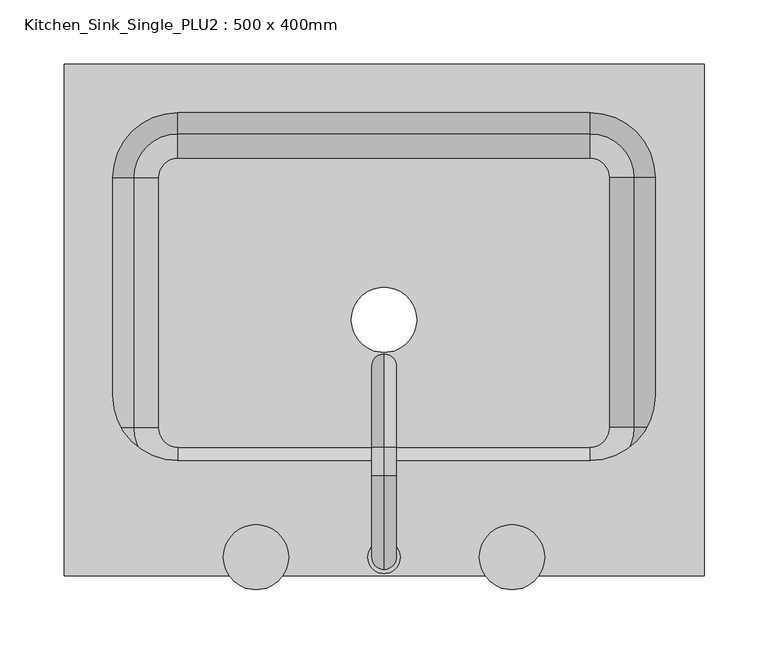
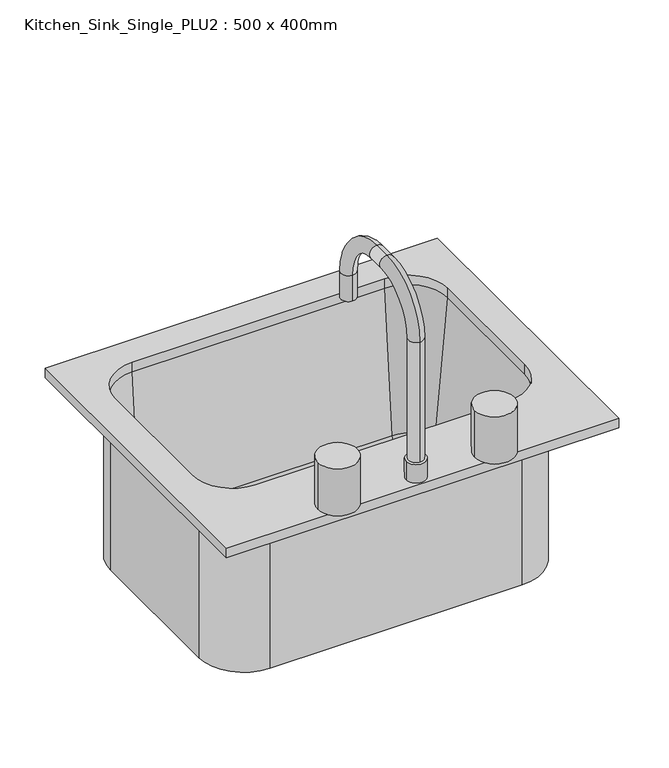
"""IFC4 building model written with IfcOpenShell, lengths in millimetres: flow terminal geometry, Kitchen_Sink_Single_PLU2 : 500 x 400mm."""

from ifc_helpers import new_model, si_unit, point, frame, frame_2d, origin, origin_with_axes, place, context, project, spatial, polyline, circle_curve, ellipse_curve, trimmed, segment, composite_curve, outline, extrude, source, transform, mapped, element, save
from ifc_brep_helpers import plane_surface, cylinder_surface, revolved_surface, advanced_brep


def kitchen_sink_single_plu2_500_x_400mm_1b04c9e8(model_context):
    return source(origin(), model_context, "Body", "SolidModel", [
        extrude(outline(polyline([(250.0, -200.0), (-250.0, -200.0), (-250.0, 200.0), (250.0, 200.0), (250.0, -200.0)]), holes=[composite_curve([segment(trimmed(circle_curve(frame_2d((161.1, -59.2710828)), 50.8), [point((161.1, -110.0710828))], [point((211.9, -59.2710828))], True, "CARTESIAN"), True, "CONTINUOUS"), segment(polyline([(211.9, -59.2710828), (211.9, 111.1)]), True, "CONTINUOUS"), segment(trimmed(circle_curve(frame_2d((161.1, 111.1)), 50.8), [point((211.9, 111.1))], [point((161.1, 161.9))], True, "CARTESIAN"), True, "CONTINUOUS"), segment(polyline([(161.1, 161.9), (-161.1, 161.9)]), True, "CONTINUOUS"), segment(trimmed(circle_curve(frame_2d((-161.1, 111.1)), 50.8), [point((-161.1, 161.9))], [point((-211.9, 111.1))], True, "CARTESIAN"), True, "CONTINUOUS"), segment(polyline([(-211.9, 111.1), (-211.9, -59.2710828)]), True, "CONTINUOUS"), segment(trimmed(circle_curve(frame_2d((-161.1, -59.2710828)), 50.8), [point((-211.9, -59.2710828))], [point((-161.1, -110.0710828))], True, "CARTESIAN"), True, "CONTINUOUS"), segment(polyline([(-161.1, -110.0710828), (161.1, -110.0710828)]), True, "CONTINUOUS")], self_intersect=False)]), origin_with_axes(), (0.0, 0.0, 1.0), 12.7),
        extrude(outline(composite_curve([segment(trimmed(circle_curve(frame_2d((0.0, -185.59958)), 12.7), [point((-12.7, -185.59958))], [point((12.7, -185.59958))], False, "CARTESIAN"), True, "CONTINUOUS"), segment(trimmed(circle_curve(frame_2d((0.0, -185.59958)), 12.7), [point((12.7, -185.59958))], [point((-12.7, -185.59958))], False, "CARTESIAN"), True, "CONTINUOUS")], self_intersect=False)), frame((0.0, 0.0, 12.7), z_axis=(0.0, 0.0, 1.0), x_axis=(1.0, 0.0, 0.0)), (0.0, 0.0, 1.0), 25.4),
        advanced_brep(
        [(0.0, -195.12458, 12.7), (0.0, -176.07458, 12.7), (0.0, -176.07458, 200.025), (0.0, -195.12458, 200.025), (0.0, -122.09958, 254.0), (0.0, -122.09958, 273.05), (0.0, -99.87458, 254.0), (0.0, -99.87458, 273.05), (0.0, -45.89958, 200.025), (0.0, -26.84958, 200.025), (0.0, -26.84958, 165.1), (0.0, -45.89958, 165.1)],
        [
            (0, 1, circle_curve(frame((0.0, -185.59958, 12.7), z_axis=(0.0, 0.0, -1.0), x_axis=(0.0, 1.0, 0.0)), 9.525)),
            (1, 0, circle_curve(frame((0.0, -185.59958, 12.7), z_axis=(0.0, 0.0, -1.0), x_axis=(0.0, 1.0, 0.0)), 9.525)),
            (1, 2),
            (2, 3, circle_curve(frame((0.0, -185.59958, 200.025), z_axis=(0.0, 0.0, -1.0), x_axis=(0.0, 1.0, 0.0)), 9.525)),
            (3, 0),
            (3, 2, circle_curve(frame((0.0, -185.59958, 200.025), z_axis=(0.0, 0.0, -1.0), x_axis=(0.0, 1.0, 0.0)), 9.525)),
            (4, 5, circle_curve(frame((0.0, -122.09958, 263.525), z_axis=(0.0, -1.0, 0.0), x_axis=(0.0, 0.0, -1.0)), 9.525)),
            (5, 3, circle_curve(frame((0.0, -122.09958, 200.025), z_axis=(1.0, 0.0, 0.0), x_axis=(0.0, -1.0, 0.0)), 73.025)),
            (2, 4, circle_curve(frame((0.0, -122.09958, 200.025), z_axis=(-1.0, 0.0, 0.0), x_axis=(0.0, -1.0, 0.0)), 53.975)),
            (5, 4, circle_curve(frame((0.0, -122.09958, 263.525), z_axis=(0.0, -1.0, 0.0), x_axis=(0.0, 0.0, -1.0)), 9.525)),
            (4, 6),
            (6, 7, circle_curve(frame((0.0, -99.87458, 263.525), z_axis=(0.0, -1.0, 0.0), x_axis=(0.0, 0.0, -1.0)), 9.525)),
            (7, 5),
            (7, 6, circle_curve(frame((0.0, -99.87458, 263.525), z_axis=(0.0, -1.0, 0.0), x_axis=(0.0, 0.0, -1.0)), 9.525)),
            (8, 9, circle_curve(frame((0.0, -36.37458, 200.025), z_axis=(0.0, 0.0, 1.0), x_axis=(0.0, -1.0, 0.0)), 9.525)),
            (9, 7, circle_curve(frame((0.0, -99.87458, 200.025), z_axis=(1.0, 0.0, 0.0), x_axis=(0.0, 0.0, 1.0)), 73.025)),
            (6, 8, circle_curve(frame((0.0, -99.87458, 200.025), z_axis=(-1.0, 0.0, 0.0), x_axis=(0.0, 0.0, 1.0)), 53.975)),
            (9, 8, circle_curve(frame((0.0, -36.37458, 200.025), z_axis=(0.0, 0.0, 1.0), x_axis=(0.0, -1.0, 0.0)), 9.525)),
            (10, 11, circle_curve(frame((0.0, -36.37458, 165.1), z_axis=(0.0, 0.0, -1.0), x_axis=(0.0, -1.0, 0.0)), 9.525)),
            (11, 10, circle_curve(frame((0.0, -36.37458, 165.1), z_axis=(0.0, 0.0, -1.0), x_axis=(0.0, -1.0, 0.0)), 9.525)),
            (8, 11),
            (10, 9),
        ],
        [
            plane_surface(frame((0.0, -176.07458, 12.7), z_axis=(0.0, 0.0, -1.0), x_axis=(1.0, 0.0, 0.0))),
            cylinder_surface(frame((0.0, -185.59958, 12.7), z_axis=(0.0, 0.0, -1.0), x_axis=(0.0, 1.0, 0.0)), 9.525),
            revolved_surface(trimmed(ellipse_curve(frame((0.0, -185.59958, 200.025), z_axis=(0.0, 0.0, 1.0), x_axis=(0.0, 1.0, 0.0)), 9.525, 9.525), [point((0.0, -195.12458, 200.025))], [point((0.0, -176.07458, 200.025))], True, "CARTESIAN"), (0.0, -122.09958, 200.025), (1.0, 0.0, 0.0)),
            revolved_surface(trimmed(ellipse_curve(frame((0.0, -185.59958, 200.025), z_axis=(0.0, 0.0, 1.0), x_axis=(0.0, 1.0, 0.0)), 9.525, 9.525), [point((0.0, -176.07458, 200.025))], [point((0.0, -195.12458, 200.025))], True, "CARTESIAN"), (0.0, -122.09958, 200.025), (1.0, 0.0, 0.0)),
            cylinder_surface(frame((0.0, -122.09958, 263.525), z_axis=(0.0, -1.0, 0.0), x_axis=(0.0, 0.0, -1.0)), 9.525),
            revolved_surface(trimmed(ellipse_curve(frame((0.0, -99.87458, 263.525), z_axis=(0.0, 1.0, 0.0), x_axis=(0.0, 0.0, -1.0)), 9.525, 9.525), [point((0.0, -99.87458, 273.05))], [point((0.0, -99.87458, 254.0))], True, "CARTESIAN"), (0.0, -99.87458, 200.025), (1.0, 0.0, 0.0)),
            revolved_surface(trimmed(ellipse_curve(frame((0.0, -99.87458, 263.525), z_axis=(0.0, 1.0, 0.0), x_axis=(0.0, 0.0, -1.0)), 9.525, 9.525), [point((0.0, -99.87458, 254.0))], [point((0.0, -99.87458, 273.05))], True, "CARTESIAN"), (0.0, -99.87458, 200.025), (1.0, 0.0, 0.0)),
            plane_surface(frame((0.0, -26.84958, 165.1), z_axis=(0.0, 0.0, -1.0), x_axis=(-1.0, 0.0, 0.0))),
            cylinder_surface(frame((0.0, -36.37458, 200.025), z_axis=(0.0, 0.0, 1.0), x_axis=(0.0, -1.0, 0.0)), 9.525),
        ],
        [
            (0, [[1, 2]]),
            (1, [[3, 4, 5, -2]]),
            (1, [[-5, 6, -3, -1]]),
            (2, [[7, 8, -4, 9]]),
            (3, [[10, -9, -6, -8]]),
            (4, [[11, 12, 13, -7]]),
            (4, [[-13, 14, -11, -10]]),
            (5, [[15, 16, -12, 17]]),
            (6, [[18, -17, -14, -16]]),
            (7, [[19, 20]]),
            (8, [[21, -19, 22, -15]]),
            (8, [[-22, -20, -21, -18]]),
        ],
    ),
        extrude(outline(composite_curve([segment(trimmed(circle_curve(frame_2d((-100.0, -185.59958)), 25.4), [point((-125.4, -185.59958))], [point((-74.6, -185.59958))], False, "CARTESIAN"), True, "CONTINUOUS"), segment(trimmed(circle_curve(frame_2d((-100.0, -185.59958)), 25.4), [point((-74.6, -185.59958))], [point((-125.4, -185.59958))], False, "CARTESIAN"), True, "CONTINUOUS")], self_intersect=False)), frame((0.0, 0.0, 12.7), z_axis=(0.0, 0.0, 1.0), x_axis=(1.0, 0.0, 0.0)), (0.0, 0.0, 1.0), 63.5),
        extrude(outline(composite_curve([segment(trimmed(circle_curve(frame_2d((100.0, -185.59958)), 25.4), [point((74.6, -185.59958))], [point((125.4, -185.59958))], False, "CARTESIAN"), True, "CONTINUOUS"), segment(trimmed(circle_curve(frame_2d((100.0, -185.59958)), 25.4), [point((125.4, -185.59958))], [point((74.6, -185.59958))], False, "CARTESIAN"), True, "CONTINUOUS")], self_intersect=False)), frame((0.0, 0.0, 12.7), z_axis=(0.0, 0.0, 1.0), x_axis=(1.0, 0.0, 0.0)), (0.0, 0.0, 1.0), 63.5),
        advanced_brep(
        [(218.25, -84.2710828, -215.9), (218.25, -84.2710828, 0.0), (161.1, -141.4210828, 0.0), (161.1, -141.4210828, -215.9), (195.3659272, -84.2710828, -188.9853169), (176.3884182, -84.2710828, -206.375), (161.1, -99.559501, -206.375), (161.1, -118.53701, -188.9853169), (161.1, -135.0710828, 0.0), (211.9, -84.2710828, 0.0), (218.25, 111.1, -215.9), (218.25, 111.1, 0.0), (195.3659272, 111.1, -188.9853169), (176.3884182, 111.1, -206.375), (211.9, 111.1, 0.0), (161.1, 168.25, -215.9), (161.1, 168.25, 0.0), (161.1, 145.3659272, -188.9853169), (161.1, 126.3884182, -206.375), (161.1, 161.9, 0.0), (-161.1, 168.25, -215.9), (-161.1, 168.25, 0.0), (-161.1, 145.3659272, -188.9853169), (-161.1, 126.3884182, -206.375), (-161.1, 161.9, 0.0), (-218.25, 111.1, -215.9), (-218.25, 111.1, 0.0), (-195.3659272, 111.1, -188.9853169), (-176.3884182, 111.1, -206.375), (-211.9, 111.1, 0.0), (-218.25, -84.2710828, -215.9), (-218.25, -84.2710828, 0.0), (-195.3659272, -84.2710828, -188.9853169), (-176.3884182, -84.2710828, -206.375), (-211.9, -84.2710828, 0.0), (-161.1, -141.4210828, -215.9), (-161.1, -141.4210828, 0.0), (-161.1, -118.53701, -188.9853169), (-161.1, -99.559501, -206.375), (-161.1, -135.0710828, 0.0), (-25.4, 0.0, -215.9), (25.4, 0.0, -215.9), (-25.4, 0.0, -206.375), (25.4, 0.0, -206.375)],
        [
            (0, 1),
            (1, 2, circle_curve(frame((161.1, -84.2710828, 0.0), z_axis=(0.0, 0.0, -1.0), x_axis=(0.0, -1.0, 0.0)), 57.15)),
            (2, 3),
            (3, 0, circle_curve(frame((161.1, -84.2710828, -215.9), z_axis=(0.0, 0.0, 1.0), x_axis=(0.0, -1.0, 0.0)), 57.15)),
            (4, 5, circle_curve(frame((176.3884182, -84.2710828, -187.325), z_axis=(0.0, 1.0, 0.0), x_axis=(1.0, 0.0, 0.0)), 19.05)),
            (5, 6, circle_curve(frame((161.1, -84.2710828, -206.375), z_axis=(0.0, 0.0, -1.0), x_axis=(0.0, -1.0, 0.0)), 15.2884182)),
            (6, 7, circle_curve(frame((161.1, -99.559501, -187.325), z_axis=(-1.0, 0.0, 0.0), x_axis=(0.0, -1.0, 0.0)), 19.05)),
            (7, 4, circle_curve(frame((161.1, -84.2710828, -188.9853169), z_axis=(0.0, 0.0, 1.0), x_axis=(0.0, -1.0, 0.0)), 34.2659272)),
            (7, 8),
            (8, 9, circle_curve(frame((161.1, -84.2710828, 0.0), z_axis=(0.0, 0.0, 1.0), x_axis=(0.0, -1.0, 0.0)), 50.8)),
            (9, 4),
            (0, 10),
            (10, 11),
            (11, 1),
            (4, 12),
            (12, 13, circle_curve(frame((176.3884182, 111.1, -187.325), z_axis=(0.0, 1.0, 0.0), x_axis=(1.0, 0.0, 0.0)), 19.05)),
            (13, 5),
            (9, 14),
            (14, 12),
            (10, 15, circle_curve(frame((161.1, 111.1, -215.9), z_axis=(0.0, 0.0, 1.0), x_axis=(1.0, 0.0, 0.0)), 57.15)),
            (15, 16),
            (16, 11, circle_curve(frame((161.1, 111.1, 0.0), z_axis=(0.0, 0.0, -1.0), x_axis=(1.0, 0.0, 0.0)), 57.15)),
            (12, 17, circle_curve(frame((161.1, 111.1, -188.9853169), z_axis=(0.0, 0.0, 1.0), x_axis=(1.0, 0.0, 0.0)), 34.2659272)),
            (17, 18, circle_curve(frame((161.1, 126.3884182, -187.325), z_axis=(-1.0, 0.0, 0.0), x_axis=(0.0, 1.0, 0.0)), 19.05)),
            (18, 13, circle_curve(frame((161.1, 111.1, -206.375), z_axis=(0.0, 0.0, -1.0), x_axis=(1.0, 0.0, 0.0)), 15.2884182)),
            (14, 19, circle_curve(frame((161.1, 111.1, 0.0), z_axis=(0.0, 0.0, 1.0), x_axis=(1.0, 0.0, 0.0)), 50.8)),
            (19, 17),
            (15, 20),
            (20, 21),
            (21, 16),
            (17, 22),
            (22, 23, circle_curve(frame((-161.1, 126.3884182, -187.325), z_axis=(-1.0, 0.0, 0.0), x_axis=(0.0, 1.0, 0.0)), 19.05)),
            (23, 18),
            (19, 24),
            (24, 22),
            (20, 25, circle_curve(frame((-161.1, 111.1, -215.9), z_axis=(0.0, 0.0, 1.0), x_axis=(0.0, 1.0, 0.0)), 57.15)),
            (25, 26),
            (26, 21, circle_curve(frame((-161.1, 111.1, 0.0), z_axis=(0.0, 0.0, -1.0), x_axis=(0.0, 1.0, 0.0)), 57.15)),
            (22, 27, circle_curve(frame((-161.1, 111.1, -188.9853169), z_axis=(0.0, 0.0, 1.0), x_axis=(0.0, 1.0, 0.0)), 34.2659272)),
            (27, 28, circle_curve(frame((-176.3884182, 111.1, -187.325), z_axis=(0.0, -1.0, 0.0), x_axis=(-1.0, 0.0, 0.0)), 19.05)),
            (28, 23, circle_curve(frame((-161.1, 111.1, -206.375), z_axis=(0.0, 0.0, -1.0), x_axis=(0.0, 1.0, 0.0)), 15.2884182)),
            (24, 29, circle_curve(frame((-161.1, 111.1, 0.0), z_axis=(0.0, 0.0, 1.0), x_axis=(0.0, 1.0, 0.0)), 50.8)),
            (29, 27),
            (25, 30),
            (30, 31),
            (31, 26),
            (27, 32),
            (32, 33, circle_curve(frame((-176.3884182, -84.2710828, -187.325), z_axis=(0.0, -1.0, 0.0), x_axis=(-1.0, 0.0, 0.0)), 19.05)),
            (33, 28),
            (29, 34),
            (34, 32),
            (30, 35, circle_curve(frame((-161.1, -84.2710828, -215.9), z_axis=(0.0, 0.0, 1.0), x_axis=(-1.0, 0.0, 0.0)), 57.15)),
            (35, 36),
            (36, 31, circle_curve(frame((-161.1, -84.2710828, 0.0), z_axis=(0.0, 0.0, -1.0), x_axis=(-1.0, 0.0, 0.0)), 57.15)),
            (32, 37, circle_curve(frame((-161.1, -84.2710828, -188.9853169), z_axis=(0.0, 0.0, 1.0), x_axis=(-1.0, 0.0, 0.0)), 34.2659272)),
            (37, 38, circle_curve(frame((-161.1, -99.559501, -187.325), z_axis=(1.0, 0.0, 0.0), x_axis=(0.0, -1.0, 0.0)), 19.05)),
            (38, 33, circle_curve(frame((-161.1, -84.2710828, -206.375), z_axis=(0.0, 0.0, -1.0), x_axis=(-1.0, 0.0, 0.0)), 15.2884182)),
            (34, 39, circle_curve(frame((-161.1, -84.2710828, 0.0), z_axis=(0.0, 0.0, 1.0), x_axis=(-1.0, 0.0, 0.0)), 50.8)),
            (39, 37),
            (2, 36),
            (35, 3),
            (40, 41, circle_curve(frame((0.0, 0.0, -215.9), z_axis=(0.0, 0.0, 1.0), x_axis=(1.0, 0.0, 0.0)), 25.4)),
            (41, 40, circle_curve(frame((0.0, 0.0, -215.9), z_axis=(0.0, 0.0, 1.0), x_axis=(1.0, 0.0, 0.0)), 25.4)),
            (38, 6),
            (42, 43, circle_curve(frame((0.0, 0.0, -206.375), z_axis=(0.0, 0.0, -1.0), x_axis=(1.0, 0.0, 0.0)), 25.4)),
            (43, 42, circle_curve(frame((0.0, 0.0, -206.375), z_axis=(0.0, 0.0, -1.0), x_axis=(1.0, 0.0, 0.0)), 25.4)),
            (37, 7),
            (39, 8),
            (43, 41),
            (40, 42),
        ],
        [
            cylinder_surface(frame((161.1, -84.2710828, 0.0), z_axis=(0.0, 0.0, -1.0), x_axis=(0.0, -1.0, 0.0)), 57.15),
            revolved_surface(trimmed(ellipse_curve(frame((161.1, -99.559501, -187.325), z_axis=(-1.0, 0.0, 0.0), x_axis=(0.0, -1.0, 0.0)), 19.05, 19.05), [point((161.1, -99.559501, -206.375))], [point((161.1, -118.53701, -188.9853169))], True, "CARTESIAN"), (161.1, -84.2710828, 0.0), (0.0, 0.0, -1.0)),
            revolved_surface(polyline([(161.1, -118.53701, -188.9853169), (161.1, -135.0710828, 0.0)]), (161.1, -84.2710828, 0.0), (0.0, 0.0, -1.0)),
            plane_surface(frame((218.25, -84.2710828, 0.0), z_axis=(1.0, 0.0, 0.0), x_axis=(0.0, 1.0, 0.0))),
            revolved_surface(polyline([(195.4384182, 111.10000000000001, -187.325), (195.4384182, -84.2710828, -187.325)]), (176.3884182, -84.2710828, -187.325), (0.0, 1.0, 0.0)),
            plane_surface(frame((195.3659272, -84.2710828, -188.9853169), z_axis=(-0.9961946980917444, 0.0, 0.08715574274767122), x_axis=(0.0, 1.0, 0.0))),
            cylinder_surface(frame((161.1, 111.1, 0.0), z_axis=(0.0, 0.0, -1.0), x_axis=(1.0, 0.0, 0.0)), 57.15),
            revolved_surface(trimmed(ellipse_curve(frame((176.3884182, 111.1, -187.325), z_axis=(0.0, -1.0, 0.0), x_axis=(1.0, 0.0, 0.0)), 19.05, 19.05), [point((176.3884182, 111.1, -206.375))], [point((195.3659272, 111.1, -188.9853169))], True, "CARTESIAN"), (161.1, 111.1, 0.0), (0.0, 0.0, -1.0)),
            revolved_surface(polyline([(195.3659272, 111.1, -188.9853169), (211.9, 111.1, 0.0)]), (161.1, 111.1, 0.0), (0.0, 0.0, -1.0)),
            plane_surface(frame((161.1, 168.25, 0.0), z_axis=(0.0, 1.0, 0.0), x_axis=(-1.0, 0.0, 0.0))),
            revolved_surface(polyline([(-161.1, 145.4384182, -187.325), (161.1, 145.4384182, -187.325)]), (161.1, 126.3884182, -187.325), (-1.0, 0.0, 0.0)),
            plane_surface(frame((161.1, 145.3659272, -188.9853169), z_axis=(0.0, -0.9961946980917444, 0.08715574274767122), x_axis=(-1.0, 0.0, 0.0))),
            cylinder_surface(frame((-161.1, 111.1, 0.0), z_axis=(0.0, 0.0, -1.0), x_axis=(0.0, 1.0, 0.0)), 57.15),
            revolved_surface(trimmed(ellipse_curve(frame((-161.1, 126.3884182, -187.325), z_axis=(1.0, 0.0, 0.0), x_axis=(0.0, 1.0, 0.0)), 19.05, 19.05), [point((-161.1, 126.3884182, -206.375))], [point((-161.1, 145.3659272, -188.9853169))], True, "CARTESIAN"), (-161.1, 111.1, 0.0), (0.0, 0.0, -1.0)),
            revolved_surface(polyline([(-161.1, 145.3659272, -188.9853169), (-161.1, 161.9, 0.0)]), (-161.1, 111.1, 0.0), (0.0, 0.0, -1.0)),
            plane_surface(frame((-218.25, 111.1, 0.0), z_axis=(-1.0, 0.0, 0.0), x_axis=(0.0, -1.0, 0.0))),
            revolved_surface(polyline([(-195.4384182, -84.27108280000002, -187.325), (-195.4384182, 111.1, -187.325)]), (-176.3884182, 111.1, -187.325), (0.0, -1.0, 0.0)),
            plane_surface(frame((-195.3659272, 111.1, -188.9853169), z_axis=(0.9961946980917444, 0.0, 0.08715574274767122), x_axis=(0.0, -1.0, 0.0))),
            cylinder_surface(frame((-161.1, -84.2710828, 0.0), z_axis=(0.0, 0.0, -1.0), x_axis=(-1.0, 0.0, 0.0)), 57.15),
            revolved_surface(trimmed(ellipse_curve(frame((-176.3884182, -84.2710828, -187.325), z_axis=(0.0, 1.0, 0.0), x_axis=(-1.0, 0.0, 0.0)), 19.05, 19.05), [point((-176.3884182, -84.2710828, -206.375))], [point((-195.3659272, -84.2710828, -188.9853169))], True, "CARTESIAN"), (-161.1, -84.2710828, 0.0), (0.0, 0.0, -1.0)),
            revolved_surface(polyline([(-195.3659272, -84.2710828, -188.9853169), (-211.9, -84.2710828, 0.0)]), (-161.1, -84.2710828, 0.0), (0.0, 0.0, -1.0)),
            plane_surface(frame((-161.1, -141.4210828, 0.0), z_axis=(0.0, -1.0, 0.0), x_axis=(1.0, 0.0, 0.0))),
            plane_surface(frame((-161.1, -141.4210828, -215.9), z_axis=(0.0, 0.0, -1.0), x_axis=(1.0, 0.0, 0.0))),
            plane_surface(frame((-161.1, -96.9710828, -206.375), z_axis=(0.0, 0.0, 1.0), x_axis=(1.0, 0.0, 0.0))),
            revolved_surface(polyline([(161.1, -118.609501, -187.325), (-161.1, -118.609501, -187.325)]), (-161.1, -99.559501, -187.325), (1.0, 0.0, 0.0)),
            plane_surface(frame((-161.1, -118.53701, -188.9853169), z_axis=(0.0, 0.9961946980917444, 0.08715574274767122), x_axis=(1.0, 0.0, 0.0))),
            plane_surface(frame((-161.1, -135.0710828, 0.0), z_axis=(0.0, 0.0, 1.0), x_axis=(1.0, 0.0, 0.0))),
            revolved_surface(polyline([(25.4, 0.0, -215.89999999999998), (25.4, 0.0, -206.375)]), (0.0, 0.0, -900.0), (0.0, 0.0, -1.0)),
        ],
        [
            (0, [[1, 2, 3, 4]]),
            (1, [[5, 6, 7, 8]]),
            (2, [[9, 10, 11, -8]]),
            (3, [[12, 13, 14, -1]]),
            (4, [[15, 16, 17, -5]]),
            (5, [[18, 19, -15, -11]]),
            (6, [[20, 21, 22, -13]]),
            (7, [[23, 24, 25, -16]]),
            (8, [[26, 27, -23, -19]]),
            (9, [[28, 29, 30, -21]]),
            (10, [[31, 32, 33, -24]]),
            (11, [[34, 35, -31, -27]]),
            (12, [[36, 37, 38, -29]]),
            (13, [[39, 40, 41, -32]]),
            (14, [[42, 43, -39, -35]]),
            (15, [[44, 45, 46, -37]]),
            (16, [[47, 48, 49, -40]]),
            (17, [[50, 51, -47, -43]]),
            (18, [[52, 53, 54, -45]]),
            (19, [[55, 56, 57, -48]]),
            (20, [[58, 59, -55, -51]]),
            (21, [[60, -53, 61, -3]]),
            (22, [[-61, -52, -44, -36, -28, -20, -12, -4], [62, 63]]),
            (23, [[-17, -25, -33, -41, -49, -57, 64, -6], [65, 66]]),
            (24, [[-64, -56, 67, -7]]),
            (25, [[-67, -59, 68, -9]]),
            (26, [[-14, -22, -30, -38, -46, -54, -60, -2], [-68, -58, -50, -42, -34, -26, -18, -10]]),
            (27, [[69, -62, 70, -66]]),
            (27, [[-70, -63, -69, -65]]),
        ],
    ),
    ])


if __name__ == "__main__":
    model = new_model("IFC4")
    model_context = context("Model", 3, world=origin())
    ifc_project = project(units=[si_unit("LENGTHUNIT", "METRE", prefix="MILLI")], contexts=[model_context])
    site = spatial("IfcSite", under=ifc_project)
    building = spatial("IfcBuilding", under=site)
    placement = place(None, origin())
    kitchen_sink_single_plu2_500_x_400mm_shape = kitchen_sink_single_plu2_500_x_400mm_1b04c9e8(model_context)
    element("IfcFlowTerminal", 1, ObjectType="Kitchen_Sink_Single_PLU2 : 500 x 400mm", at=placement, inside=building, context=model_context, shape_type="MappedRepresentation", body=[
        mapped(kitchen_sink_single_plu2_500_x_400mm_shape, transform((0.0, 0.0, 0.0), x_axis=(1.0, 0.0, 0.0), y_axis=(0.0, 1.0, 0.0), z_axis=(0.0, 0.0, 1.0))),
    ])
    save(model, "model.ifc")
